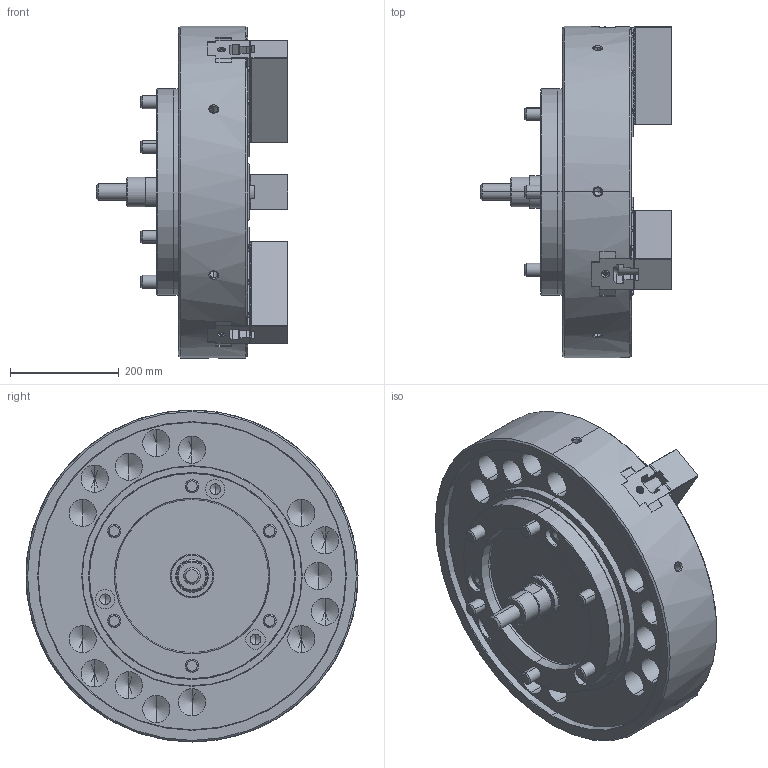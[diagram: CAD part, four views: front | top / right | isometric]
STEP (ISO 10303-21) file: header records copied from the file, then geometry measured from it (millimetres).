
FILE_DESCRIPTION (( 'STEP AP214' ), '1' );
FILE_NAME ('NV24C15_UC.STEP', '2019-12-19T07:26:25', ( '' ), ( '' ), 'SwSTEP 2.0', 'SolidWorks 2017', '' );
FILE_SCHEMA (( 'AUTOMOTIVE_DESIGN' ));
Length unit declared in the file: millimetre
Products named in the file (5): NV24C15_UC; 結合; 0030120060; 61P418538_俿僫僢僩; P32262_ソフトジョー
Assembly tree (16 placements, depth 2):
  NV24C15_UC
    P32262_ソフトジョー  x3
    61P418538_俿僫僢僩  x6
    0030120060  x6
    結合
Bounding box: 352 x 610 x 610 mm (x, y, z)
Volume: 38945394.7 mm3; surface area: 1562260.6 mm2
Topology: 16 solids, 16 shells, 4640 faces, 12795 edges, 8212 vertices
Faces by surface type: plane 3762, cylinder 417, cone 371, torus 84, sphere 6
Entity records: 113933 total; most frequent: CARTESIAN_POINT 22513, ORIENTED_EDGE 19546, DIRECTION 17904, EDGE_CURVE 9773, LINE 8214, VECTOR 8214, VERTEX_POINT 6323, AXIS2_PLACEMENT_3D 4845
